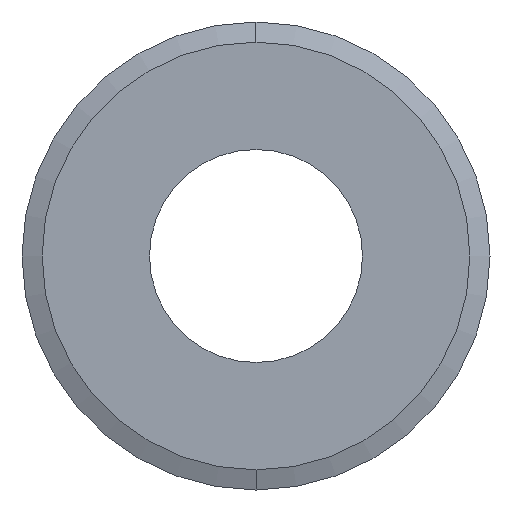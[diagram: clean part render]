
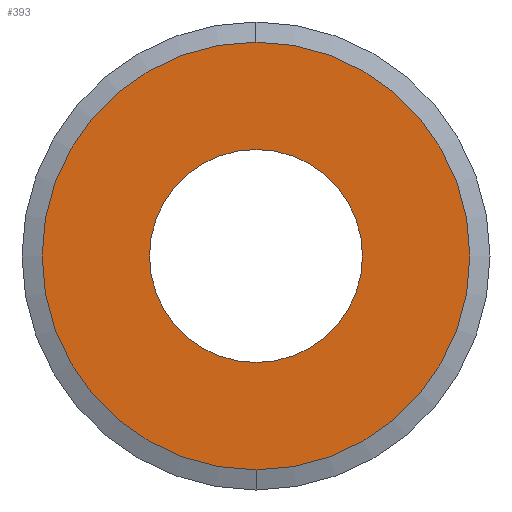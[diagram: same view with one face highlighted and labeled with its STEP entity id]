
A CAD part, left-side view. The second image highlights one B-rep face of the part: STEP entity #393.
In plain terms, the highlighted planar face has unit normal (-1, 0, 0).
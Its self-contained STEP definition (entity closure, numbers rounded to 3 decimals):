
#162 = EDGE_CURVE ( 'NONE', #1391, #575, #851, .T. ) ;
#180 = EDGE_LOOP ( 'NONE', ( #1105, #1110 ) ) ;
#207 = ORIENTED_EDGE ( 'NONE', *, *, #162, .T. ) ;
#341 = DIRECTION ( 'NONE',  ( 1., 0., 0. ) ) ;
#393 = ADVANCED_FACE ( 'NONE', ( #1507, #479 ), #1188, .F. ) ;
#451 = DIRECTION ( 'NONE',  ( -1., 0., 0. ) ) ;
#479 = FACE_OUTER_BOUND ( 'NONE', #180, .T. ) ;
#485 = AXIS2_PLACEMENT_3D ( 'NONE', #677, #1474, #529 ) ;
#489 = DIRECTION ( 'NONE',  ( 0., 0., -1. ) ) ;
#529 = DIRECTION ( 'NONE',  ( 0., 0., 1. ) ) ;
#575 = VERTEX_POINT ( 'NONE', #1012 ) ;
#611 = DIRECTION ( 'NONE',  ( 1., 0., 0. ) ) ;
#623 = AXIS2_PLACEMENT_3D ( 'NONE', #1272, #451, #1402 ) ;
#664 = CIRCLE ( 'NONE', #623, 26.5 ) ;
#677 = CARTESIAN_POINT ( 'NONE',  ( 0., 0., 0. ) ) ;
#809 = DIRECTION ( 'NONE',  ( 0., 0., -1. ) ) ;
#811 = ORIENTED_EDGE ( 'NONE', *, *, #1628, .T. ) ;
#851 = CIRCLE ( 'NONE', #1360, 13.2 ) ;
#985 = CARTESIAN_POINT ( 'NONE',  ( 0., 0., 0. ) ) ;
#1012 = CARTESIAN_POINT ( 'NONE',  ( 0., 0., 13.2 ) ) ;
#1050 = CARTESIAN_POINT ( 'NONE',  ( 0., 0., 0. ) ) ;
#1076 = EDGE_LOOP ( 'NONE', ( #207, #811 ) ) ;
#1088 = CARTESIAN_POINT ( 'NONE',  ( 0., 0., -13.2 ) ) ;
#1105 = ORIENTED_EDGE ( 'NONE', *, *, #1244, .T. ) ;
#1110 = ORIENTED_EDGE ( 'NONE', *, *, #1225, .T. ) ;
#1188 = PLANE ( 'NONE',  #1501 ) ;
#1225 = EDGE_CURVE ( 'NONE', #1369, #1480, #664, .T. ) ;
#1228 = CARTESIAN_POINT ( 'NONE',  ( 0., 0., -26.5 ) ) ;
#1244 = EDGE_CURVE ( 'NONE', #1480, #1369, #1629, .T. ) ;
#1272 = CARTESIAN_POINT ( 'NONE',  ( 0., 0., 0. ) ) ;
#1358 = CARTESIAN_POINT ( 'NONE',  ( 0., 0., 26.5 ) ) ;
#1360 = AXIS2_PLACEMENT_3D ( 'NONE', #1050, #611, #809 ) ;
#1369 = VERTEX_POINT ( 'NONE', #1228 ) ;
#1391 = VERTEX_POINT ( 'NONE', #1088 ) ;
#1400 = DIRECTION ( 'NONE',  ( 1., 0., 0. ) ) ;
#1402 = DIRECTION ( 'NONE',  ( 0., 0., 1. ) ) ;
#1470 = AXIS2_PLACEMENT_3D ( 'NONE', #985, #1400, #1630 ) ;
#1473 = CIRCLE ( 'NONE', #1470, 13.2 ) ;
#1474 = DIRECTION ( 'NONE',  ( -1., 0., 0. ) ) ;
#1480 = VERTEX_POINT ( 'NONE', #1358 ) ;
#1501 = AXIS2_PLACEMENT_3D ( 'NONE', #1592, #341, #489 ) ;
#1507 = FACE_BOUND ( 'NONE', #1076, .T. ) ;
#1592 = CARTESIAN_POINT ( 'NONE',  ( 0., 0., 0. ) ) ;
#1628 = EDGE_CURVE ( 'NONE', #575, #1391, #1473, .T. ) ;
#1629 = CIRCLE ( 'NONE', #485, 26.5 ) ;
#1630 = DIRECTION ( 'NONE',  ( 0., 0., -1. ) ) ;
